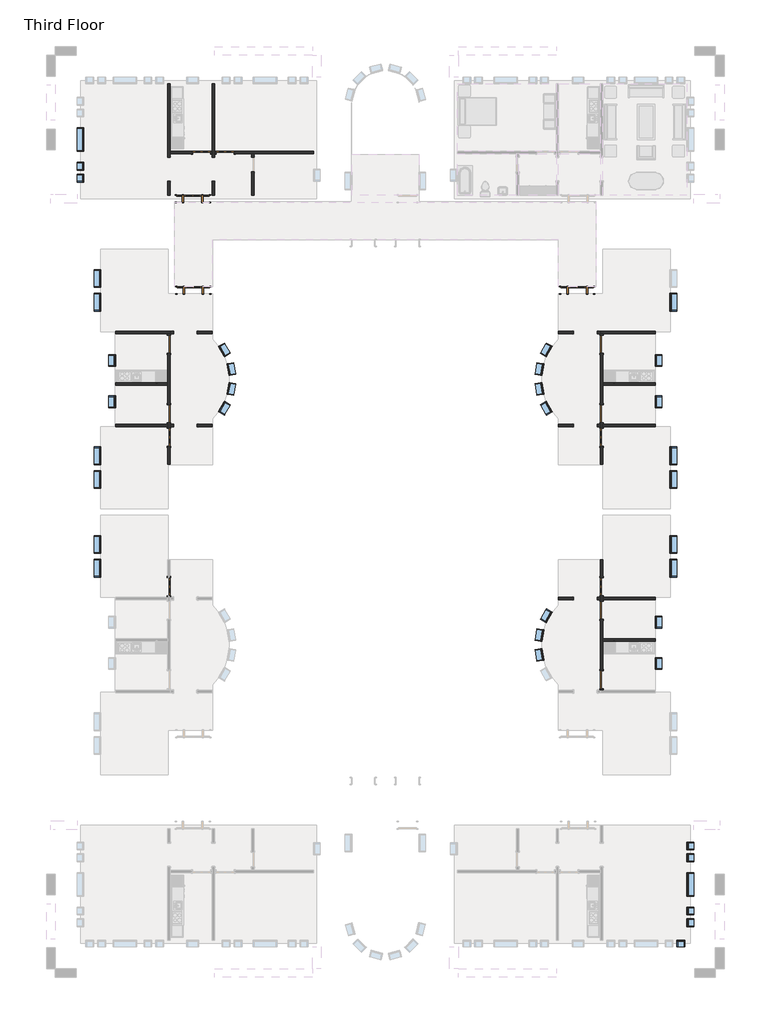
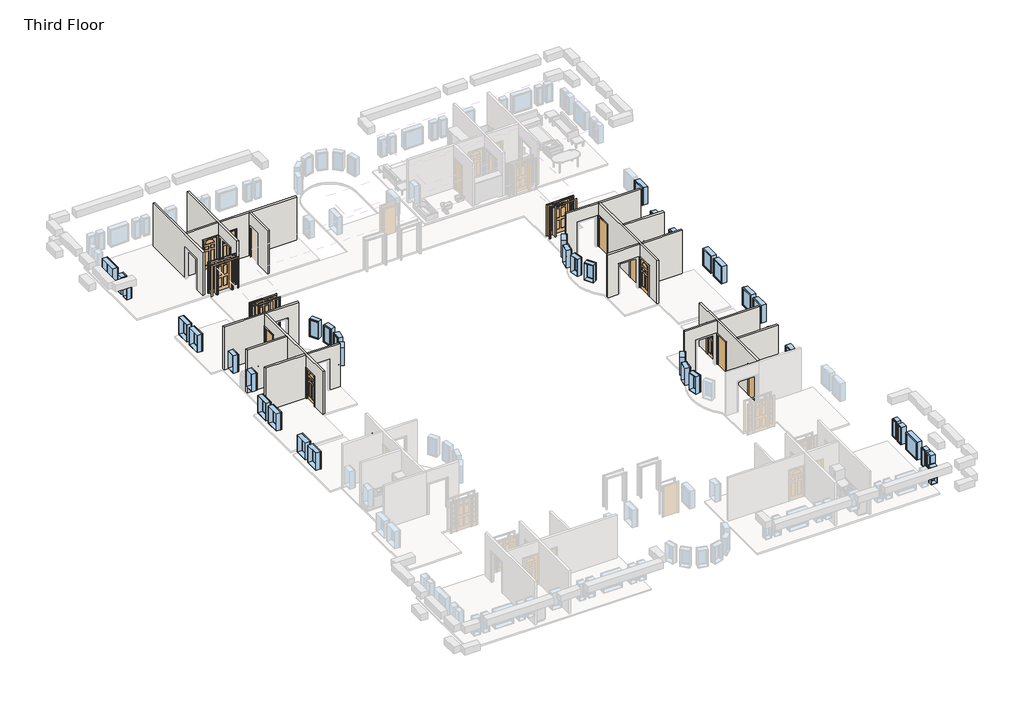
# One storey, part 2 of 4: 37 windows, 21 walls, 15 doors.
"""IFC4 building model written with IfcOpenShell, lengths in millimetres."""

from ifc_helpers import new_model, si_unit, frame, origin, place, context, project, spatial, polyline, outline, extrude, faceted_brep, transform, mapped, element, save
from components import door_829da954, door_2e3b4da2, door_a1797ceb, door_a3eb833a, door_dba5aa2e, door_ffdb1193, window_da97879f, window_d61ef850, window_60baf983, window_ed80354a, window_15c49d37, window_0e2fc6ce, window_d89bf842

model = new_model("IFC4")

# Units and contexts
model_context = context("Model", 3, world=origin())
ifc_project = project(units=[si_unit("LENGTHUNIT", "METRE", prefix="MILLI")], contexts=[model_context])

# Site, building, storey
site = spatial("IfcSite", under=ifc_project)
building = spatial("IfcBuilding", under=site)
storey = spatial("IfcBuildingStorey", under=building, Name="Third Floor", Elevation=6096.0)

# Doors
placement = place(None, origin())
door_shape = door_829da954(model_context)
element("IfcDoor", 1, ObjectType="Single-Decorative 2 : 36\" x 84\"", at=placement, inside=storey, context=model_context, shape_type="MappedRepresentation", body=[
    mapped(door_shape, transform((-23201.2839563, 6723.5441867, 6096.0), x_axis=(-1.0, 0.0, 0.0), y_axis=(0.0, -1.0, 0.0), z_axis=(0.0, 0.0, 1.0))),
])
element("IfcDoor", 2, ObjectType="Single-Decorative 2 : 36\" x 84\"", at=placement, inside=storey, context=model_context, shape_type="MappedRepresentation", body=[
    mapped(door_shape, transform((-26096.8839563, -7954.4808133, 6096.0), x_axis=(0.0, 1.0, 0.0), y_axis=(-1.0, 0.0, 0.0), z_axis=(0.0, 0.0, 1.0))),
])
element("IfcDoor", 3, ObjectType="Single-Decorative 2 : 36\" x 84\"", at=placement, inside=storey, context=model_context, shape_type="MappedRepresentation", body=[
    mapped(door_shape, transform((-3773.4589563, -15653.8558133, 6096.0), x_axis=(0.0, -1.0, 0.0), y_axis=(1.0, 0.0, 0.0), z_axis=(0.0, 0.0, 1.0))),
])
door_2_shape = door_2e3b4da2(model_context)
element("IfcDoor", 4, ObjectType="Single-Decorative 2 : 36\" x 84\"", at=placement, inside=storey, context=model_context, shape_type="MappedRepresentation", body=[
    mapped(door_2_shape, transform((-3773.4589563, -7954.4808133, 6096.0), x_axis=(0.0, 1.0, 0.0), y_axis=(-1.0, 0.0, 0.0), z_axis=(0.0, 0.0, 1.0))),
])
element("IfcDoor", 5, ObjectType="Single-Decorative 2 : 36\" x 84\"", at=placement, inside=storey, context=model_context, shape_type="MappedRepresentation", body=[
    mapped(door_2_shape, transform((-24420.4839563, 6723.5441867, 6096.0), x_axis=(1.0, 0.0, 0.0), y_axis=(0.0, 1.0, 0.0), z_axis=(0.0, 0.0, 1.0))),
])
element("IfcDoor", 6, ObjectType="Single-Decorative 2 : 36\" x 84\"", at=placement, inside=storey, context=model_context, shape_type="MappedRepresentation", body=[
    mapped(door_2_shape, transform((-26096.8839563, -15653.8558133, 6096.0), x_axis=(0.0, -1.0, 0.0), y_axis=(1.0, 0.0, 0.0), z_axis=(0.0, 0.0, 1.0))),
])
door_3_shape = door_a1797ceb(model_context)
element("IfcDoor", 7, ObjectType="Single-Flush : 36\" x 84\"", at=placement, inside=storey, context=model_context, shape_type="MappedRepresentation", body=[
    mapped(door_3_shape, transform((-3773.4589563, -3157.0558133, 6096.0), x_axis=(0.0, 1.0, 0.0), y_axis=(-1.0, 0.0, 0.0), z_axis=(0.0, 0.0, 1.0))),
])
element("IfcDoor", 8, ObjectType="Single-Flush : 36\" x 84\"", at=placement, inside=storey, context=model_context, shape_type="MappedRepresentation", body=[
    mapped(door_3_shape, transform((-26096.8839563, -6735.2808133, 6096.0), x_axis=(0.0, -1.0, 0.0), y_axis=(1.0, 0.0, 0.0), z_axis=(0.0, 0.0, 1.0))),
])
element("IfcDoor", 9, ObjectType="Single-Flush : 36\" x 84\"", at=placement, inside=storey, context=model_context, shape_type="MappedRepresentation", body=[
    mapped(door_3_shape, transform((-3773.4589563, -16873.0558133, 6096.0), x_axis=(0.0, 1.0, 0.0), y_axis=(-1.0, 0.0, 0.0), z_axis=(0.0, 0.0, 1.0))),
])
door_4_shape = door_a3eb833a(model_context)
element("IfcDoor", 10, ObjectType="Single-Flush : 36\" x 84\"", at=placement, inside=storey, context=model_context, shape_type="MappedRepresentation", body=[
    mapped(door_4_shape, transform((-3773.4589563, -6735.2808133, 6096.0), x_axis=(0.0, -1.0, 0.0), y_axis=(1.0, 0.0, 0.0), z_axis=(0.0, 0.0, 1.0))),
])
element("IfcDoor", 11, ObjectType="Single-Flush : 36\" x 84\"", at=placement, inside=storey, context=model_context, shape_type="MappedRepresentation", body=[
    mapped(door_4_shape, transform((-26096.8839563, -3157.0558133, 6096.0), x_axis=(0.0, 1.0, 0.0), y_axis=(-1.0, 0.0, 0.0), z_axis=(0.0, 0.0, 1.0))),
])
element("IfcDoor", 12, ObjectType="Single-Flush : 36\" x 84\"", at=placement, inside=storey, context=model_context, shape_type="MappedRepresentation", body=[
    mapped(door_4_shape, transform((-3773.4589563, -20451.2808133, 6096.0), x_axis=(0.0, -1.0, 0.0), y_axis=(1.0, 0.0, 0.0), z_axis=(0.0, 0.0, 1.0))),
])
door_5_shape = door_dba5aa2e(model_context)
element("IfcDoor", 13, ObjectType="Single-Raised Panel with Sidelights : 36\" x 84\"", at=placement, inside=storey, context=model_context, shape_type="MappedRepresentation", body=[
    mapped(door_5_shape, transform((-5029.1714563, -374.1683133, 6096.0), x_axis=(-1.0, 0.0, 0.0), y_axis=(0.0, -1.0, 0.0), z_axis=(0.0, 0.0, 1.0))),
])
door_6_shape = door_ffdb1193(model_context)
element("IfcDoor", 14, ObjectType="Single-Raised Panel with Sidelights : 36\" x 84\"", at=placement, inside=storey, context=model_context, shape_type="MappedRepresentation", body=[
    mapped(door_6_shape, transform((-24877.6839563, 4350.2316867, 6096.0), x_axis=(1.0, 0.0, 0.0), y_axis=(0.0, 1.0, 0.0), z_axis=(0.0, 0.0, 1.0))),
])
element("IfcDoor", 15, ObjectType="Single-Raised Panel with Sidelights : 36\" x 84\"", at=placement, inside=storey, context=model_context, shape_type="MappedRepresentation", body=[
    mapped(door_6_shape, transform((-24841.1714563, -374.1683133, 6096.0), x_axis=(1.0, 0.0, 0.0), y_axis=(0.0, 1.0, 0.0), z_axis=(0.0, 0.0, 1.0))),
])

# Walls
element("IfcWall", 16, ObjectType="Interior - 5\" Partition (2-hr)", at=placement, inside=storey, context=model_context, shape_type="Brep", body=[
    faceted_brep([(-1014.3839563, -2483.9558133, 6096.0), (-3836.9589563, -2483.9558133, 6096.0), (-3836.9589563, -2483.9558133, 9144.0), (-1014.3839563, -2483.9558133, 9144.0), (-1014.3839563, -2610.9558133, 6096.0), (-1014.3839563, -2610.9558133, 9144.0), (-3709.9589563, -2610.9558133, 9144.0), (-3836.9589563, -2610.9558133, 9144.0), (-3836.9589563, -2610.9558133, 6096.0), (-3709.9589563, -2610.9558133, 6096.0)], [[[0, 1, 2, 3]], [[4, 5, 6, 7, 8, 9]], [[1, 0, 4, 9, 8]], [[3, 2, 7, 6, 5]], [[2, 1, 8, 7]], [[0, 3, 5, 4]]]),
])
element("IfcWall", 17, ObjectType="Interior - 5\" Partition (2-hr)", at=placement, inside=storey, context=model_context, shape_type="Brep", body=[
    faceted_brep([(-3709.9589563, -7497.2808133, 8229.6), (-3709.9589563, -7497.2808133, 6096.0), (-3709.9589563, -7408.3808133, 6096.0), (-3709.9589563, -7281.3808133, 6096.0), (-3709.9589563, -7192.4808133, 6096.0), (-3709.9589563, -7192.4808133, 8229.6), (-3709.9589563, -6278.0808133, 8229.6), (-3709.9589563, -6278.0808133, 6096.0), (-3709.9589563, -5274.7808133, 6096.0), (-3709.9589563, -5147.7808133, 6096.0), (-3709.9589563, -3614.2558133, 6096.0), (-3709.9589563, -3614.2558133, 8229.6), (-3709.9589563, -2699.8558133, 8229.6), (-3709.9589563, -2699.8558133, 6096.0), (-3709.9589563, -2610.9558133, 6096.0), (-3709.9589563, -2610.9558133, 9144.0), (-3709.9589563, -5147.7808133, 9144.0), (-3709.9589563, -5274.7808133, 9144.0), (-3709.9589563, -7281.3808133, 9144.0), (-3709.9589563, -7408.3808133, 9144.0), (-3709.9589563, -9341.9558133, 9144.0), (-3709.9589563, -9341.9558133, 6096.0), (-3709.9589563, -8411.6808133, 6096.0), (-3709.9589563, -8411.6808133, 8229.6), (-3836.9589563, -7192.4808133, 6096.0), (-3836.9589563, -7281.3808133, 6096.0), (-3836.9589563, -7408.3808133, 6096.0), (-3836.9589563, -7497.2808133, 6096.0), (-3836.9589563, -7497.2808133, 8229.6), (-3836.9589563, -8411.6808133, 8229.6), (-3836.9589563, -8411.6808133, 6096.0), (-3836.9589563, -9341.9558133, 6096.0), (-3836.9589563, -9341.9558133, 9144.0), (-3836.9589563, -7408.3808133, 9144.0), (-3836.9589563, -7281.3808133, 9144.0), (-3836.9589563, -2610.9558133, 9144.0), (-3836.9589563, -2610.9558133, 6096.0), (-3836.9589563, -2699.8558133, 6096.0), (-3836.9589563, -2699.8558133, 8229.6), (-3836.9589563, -3614.2558133, 8229.6), (-3836.9589563, -3614.2558133, 6096.0), (-3836.9589563, -6278.0808133, 6096.0), (-3836.9589563, -6278.0808133, 8229.6), (-3836.9589563, -7192.4808133, 8229.6)], [[[0, 1, 2, 3, 4, 5, 6, 7, 8, 9, 10, 11, 12, 13, 14, 15, 16, 17, 18, 19, 20, 21, 22, 23]], [[24, 25, 26, 27, 28, 29, 30, 31, 32, 33, 34, 35, 36, 37, 38, 39, 40, 41, 42, 43]], [[14, 13, 37, 36]], [[4, 3, 2, 1, 27, 26, 25, 24]], [[41, 40, 10, 9, 8, 7]], [[22, 21, 31, 30]], [[20, 19, 18, 17, 16, 15, 35, 34, 33, 32]], [[15, 14, 36, 35]], [[21, 20, 32, 31]], [[38, 37, 13, 12]], [[39, 38, 12, 11]], [[40, 39, 11, 10]], [[5, 4, 24, 43]], [[6, 5, 43, 42]], [[7, 6, 42, 41]], [[28, 27, 1, 0]], [[29, 28, 0, 23]], [[30, 29, 23, 22]]]),
])
element("IfcWall", 18, ObjectType="Interior - 5\" Partition (2-hr)", at=placement, inside=storey, context=model_context, shape_type="SweptSolid", body=[
    extrude(outline(polyline([(-3709.9589563, -7281.3808133), (-1014.3839563, -7281.3808133), (-1014.3839563, -7408.3808133), (-3709.9589563, -7408.3808133), (-3709.9589563, -7281.3808133)])), frame((0.0, 0.0, 6096.0), z_axis=(0.0, 0.0, 1.0), x_axis=(1.0, 0.0, 0.0)), (0.0, 0.0, 1.0), 3048.0),
])
element("IfcWall", 19, ObjectType="Interior - 5\" Partition (2-hr)", at=placement, inside=storey, context=model_context, shape_type="SweptSolid", body=[
    extrude(outline(polyline([(-1014.3839563, -5274.7808133), (-3709.9589563, -5274.7808133), (-3709.9589563, -5147.7808133), (-1014.3839563, -5147.7808133), (-1014.3839563, -5274.7808133)])), frame((0.0, 0.0, 6096.0), z_axis=(0.0, 0.0, 1.0), x_axis=(1.0, 0.0, 0.0)), (0.0, 0.0, 1.0), 3048.0),
])
element("IfcWall", 20, ObjectType="Interior - 5\" Partition (2-hr)", at=placement, inside=storey, context=model_context, shape_type="SweptSolid", body=[
    extrude(outline(polyline([(6096.0, -5995.9589563), (6096.0, -5221.2589563), (8229.6, -5221.2589563), (8229.6, -4002.0589563), (6096.0, -4002.0589563), (6096.0, -3836.9589563), (9144.0, -3836.9589563), (9144.0, -5995.9589563), (6096.0, -5995.9589563)])), frame((0.0, -7408.3808133, 0.0), z_axis=(0.0, 1.0, 0.0), x_axis=(0.0, 0.0, 1.0)), (0.0, 0.0, 1.0), 127.0),
])
element("IfcWall", 21, ObjectType="Interior - 5\" Partition (2-hr)", at=placement, inside=storey, context=model_context, shape_type="SweptSolid", body=[
    extrude(outline(polyline([(8229.6, -4002.0589563), (6096.0, -4002.0589563), (6096.0, -3836.9589563), (9144.0, -3836.9589563), (9144.0, -5995.9589563), (6096.0, -5995.9589563), (6096.0, -5221.2589563), (8229.6, -5221.2589563), (8229.6, -4002.0589563)])), frame((0.0, -2610.9558133, 0.0), z_axis=(0.0, 1.0, 0.0), x_axis=(0.0, 0.0, 1.0)), (0.0, 0.0, 1.0), 127.0),
])
element("IfcWall", 22, ObjectType="Interior - 5\" Partition (2-hr)", at=placement, inside=storey, context=model_context, shape_type="Brep", body=[
    faceted_brep([(-26160.3839563, 10270.0191867, 6096.0), (-26160.3839563, 6483.8316867, 6096.0), (-26160.3839563, 6483.8316867, 8229.6), (-26160.3839563, 5264.6316867, 8229.6), (-26160.3839563, 5264.6316867, 6096.0), (-26160.3839563, 4526.4441867, 6096.0), (-26160.3839563, 4526.4441867, 9144.0), (-26160.3839563, 10270.0191867, 9144.0), (-26033.3839563, 6483.8316867, 8229.6), (-26033.3839563, 6483.8316867, 6096.0), (-26033.3839563, 6660.0441867, 6096.0), (-26033.3839563, 6787.0441867, 6096.0), (-26033.3839563, 10270.0191867, 6096.0), (-26033.3839563, 10270.0191867, 9144.0), (-26033.3839563, 6787.0441867, 9144.0), (-26033.3839563, 6660.0441867, 9144.0), (-26033.3839563, 4526.4441867, 9144.0), (-26033.3839563, 4526.4441867, 6096.0), (-26033.3839563, 5264.6316867, 6096.0), (-26033.3839563, 5264.6316867, 8229.6)], [[[0, 1, 2, 3, 4, 5, 6, 7]], [[8, 9, 10, 11, 12, 13, 14, 15, 16, 17, 18, 19]], [[12, 11, 10, 9, 1, 0]], [[18, 17, 5, 4]], [[7, 6, 16, 15, 14, 13]], [[0, 7, 13, 12]], [[6, 5, 17, 16]], [[4, 3, 19, 18]], [[2, 1, 9, 8]], [[3, 2, 8, 19]]]),
])
element("IfcWall", 23, ObjectType="Interior - 5\" Partition (2-hr)", at=placement, inside=storey, context=model_context, shape_type="Brep", body=[
    faceted_brep([(-23874.3839563, 5264.6316867, 8229.6), (-23874.3839563, 5264.6316867, 6096.0), (-23874.3839563, 4526.4441867, 6096.0), (-23874.3839563, 4526.4441867, 9144.0), (-23874.3839563, 6660.0441867, 9144.0), (-23874.3839563, 6787.0441867, 9144.0), (-23874.3839563, 10270.0191867, 9144.0), (-23874.3839563, 10270.0191867, 6096.0), (-23874.3839563, 6787.0441867, 6096.0), (-23874.3839563, 6660.0441867, 6096.0), (-23874.3839563, 6483.8316867, 6096.0), (-23874.3839563, 6483.8316867, 8229.6), (-23747.3839563, 4526.4441867, 6096.0), (-23747.3839563, 5264.6316867, 6096.0), (-23747.3839563, 5264.6316867, 8229.6), (-23747.3839563, 6483.8316867, 8229.6), (-23747.3839563, 6483.8316867, 6096.0), (-23747.3839563, 6660.0441867, 6096.0), (-23747.3839563, 6787.0441867, 6096.0), (-23747.3839563, 10270.0191867, 6096.0), (-23747.3839563, 10270.0191867, 9144.0), (-23747.3839563, 6787.0441867, 9144.0), (-23747.3839563, 6660.0441867, 9144.0), (-23747.3839563, 4526.4441867, 9144.0)], [[[0, 1, 2, 3, 4, 5, 6, 7, 8, 9, 10, 11]], [[12, 13, 14, 15, 16, 17, 18, 19, 20, 21, 22, 23]], [[2, 1, 13, 12]], [[10, 9, 8, 7, 19, 18, 17, 16]], [[6, 5, 4, 3, 23, 22, 21, 20]], [[7, 6, 20, 19]], [[3, 2, 12, 23]], [[16, 15, 11, 10]], [[14, 13, 1, 0]], [[15, 14, 0, 11]]]),
])
element("IfcWall", 24, ObjectType="Interior - 5\" Partition (2-hr)", at=placement, inside=storey, context=model_context, shape_type="Brep", body=[
    faceted_brep([(-23658.4839563, 6787.0441867, 8229.6), (-23658.4839563, 6787.0441867, 6096.0), (-23747.3839563, 6787.0441867, 6096.0), (-23747.3839563, 6787.0441867, 9144.0), (-18653.0964563, 6787.0441867, 9144.0), (-18653.0964563, 6787.0441867, 6096.0), (-22744.0839563, 6787.0441867, 6096.0), (-22744.0839563, 6787.0441867, 8229.6), (-23747.3839563, 6660.0441867, 6096.0), (-23658.4839563, 6660.0441867, 6096.0), (-23658.4839563, 6660.0441867, 8229.6), (-22744.0839563, 6660.0441867, 8229.6), (-22744.0839563, 6660.0441867, 6096.0), (-21828.0964563, 6660.0441867, 6096.0), (-21701.0964563, 6660.0441867, 6096.0), (-18653.0964563, 6660.0441867, 6096.0), (-18653.0964563, 6660.0441867, 9144.0), (-21701.0964563, 6660.0441867, 9144.0), (-21828.0964563, 6660.0441867, 9144.0), (-23747.3839563, 6660.0441867, 9144.0)], [[[0, 1, 2, 3, 4, 5, 6, 7]], [[8, 9, 10, 11, 12, 13, 14, 15, 16, 17, 18, 19]], [[2, 1, 9, 8]], [[6, 5, 15, 14, 13, 12]], [[4, 3, 19, 18, 17, 16]], [[3, 2, 8, 19]], [[5, 4, 16, 15]], [[10, 9, 1, 0]], [[11, 10, 0, 7]], [[12, 11, 7, 6]]]),
])
element("IfcWall", 25, ObjectType="Interior - 5\" Partition (2-hr)", at=placement, inside=storey, context=model_context, shape_type="SweptSolid", body=[
    extrude(outline(polyline([(6660.0441867, 6096.0), (6494.9441867, 6096.0), (6494.9441867, 8229.6), (5732.9441867, 8229.6), (5732.9441867, 6096.0), (4526.4441867, 6096.0), (4526.4441867, 9144.0), (6660.0441867, 9144.0), (6660.0441867, 6096.0)])), frame((-21828.0964563, 0.0, 0.0), z_axis=(1.0, 0.0, 0.0), x_axis=(0.0, 1.0, 0.0)), (0.0, 0.0, 1.0), 127.0),
])
element("IfcWall", 26, ObjectType="Interior - 5\" Partition (2-hr)", at=placement, inside=storey, context=model_context, shape_type="SweptSolid", body=[
    extrude(outline(polyline([(8229.6, -23963.2839563), (6096.0, -23963.2839563), (6096.0, -23874.3839563), (9144.0, -23874.3839563), (9144.0, -26033.3839563), (6096.0, -26033.3839563), (6096.0, -24877.6839563), (8229.6, -24877.6839563), (8229.6, -23963.2839563)])), frame((0.0, 6660.0441867, 0.0), z_axis=(0.0, 1.0, 0.0), x_axis=(0.0, 0.0, 1.0)), (0.0, 0.0, 1.0), 127.0),
])
element("IfcWall", 27, ObjectType="Interior - 5\" Partition (2-hr)", at=placement, inside=storey, context=model_context, shape_type="Brep", body=[
    faceted_brep([(-28855.9589563, -2610.9558133, 6096.0), (-26160.3839563, -2610.9558133, 6096.0), (-26033.3839563, -2610.9558133, 6096.0), (-26033.3839563, -2610.9558133, 9144.0), (-26160.3839563, -2610.9558133, 9144.0), (-28855.9589563, -2610.9558133, 9144.0), (-28855.9589563, -2483.9558133, 6096.0), (-28855.9589563, -2483.9558133, 9144.0), (-26033.3839563, -2483.9558133, 9144.0), (-26033.3839563, -2483.9558133, 6096.0)], [[[0, 1, 2, 3, 4, 5]], [[6, 7, 8, 9]], [[2, 1, 0, 6, 9]], [[5, 4, 3, 8, 7]], [[3, 2, 9, 8]], [[0, 5, 7, 6]]]),
])
element("IfcWall", 28, ObjectType="Interior - 5\" Partition (2-hr)", at=placement, inside=storey, context=model_context, shape_type="Brep", body=[
    faceted_brep([(-26033.3839563, -7497.2808133, 8229.6), (-26033.3839563, -7497.2808133, 6096.0), (-26033.3839563, -7408.3808133, 6096.0), (-26033.3839563, -7281.3808133, 6096.0), (-26033.3839563, -7192.4808133, 6096.0), (-26033.3839563, -7192.4808133, 8229.6), (-26033.3839563, -6278.0808133, 8229.6), (-26033.3839563, -6278.0808133, 6096.0), (-26033.3839563, -3614.2558133, 6096.0), (-26033.3839563, -3614.2558133, 8229.6), (-26033.3839563, -2699.8558133, 8229.6), (-26033.3839563, -2699.8558133, 6096.0), (-26033.3839563, -2610.9558133, 6096.0), (-26033.3839563, -2610.9558133, 9144.0), (-26033.3839563, -7281.3808133, 9144.0), (-26033.3839563, -7408.3808133, 9144.0), (-26033.3839563, -9341.9558133, 9144.0), (-26033.3839563, -9341.9558133, 6096.0), (-26033.3839563, -8411.6808133, 6096.0), (-26033.3839563, -8411.6808133, 8229.6), (-26160.3839563, -7192.4808133, 6096.0), (-26160.3839563, -7281.3808133, 6096.0), (-26160.3839563, -7408.3808133, 6096.0), (-26160.3839563, -7497.2808133, 6096.0), (-26160.3839563, -7497.2808133, 8229.6), (-26160.3839563, -8411.6808133, 8229.6), (-26160.3839563, -8411.6808133, 6096.0), (-26160.3839563, -9341.9558133, 6096.0), (-26160.3839563, -9341.9558133, 9144.0), (-26160.3839563, -7408.3808133, 9144.0), (-26160.3839563, -7281.3808133, 9144.0), (-26160.3839563, -5274.7808133, 9144.0), (-26160.3839563, -5147.7808133, 9144.0), (-26160.3839563, -2610.9558133, 9144.0), (-26160.3839563, -2610.9558133, 6096.0), (-26160.3839563, -2699.8558133, 6096.0), (-26160.3839563, -2699.8558133, 8229.6), (-26160.3839563, -3614.2558133, 8229.6), (-26160.3839563, -3614.2558133, 6096.0), (-26160.3839563, -5147.7808133, 6096.0), (-26160.3839563, -5274.7808133, 6096.0), (-26160.3839563, -6278.0808133, 6096.0), (-26160.3839563, -6278.0808133, 8229.6), (-26160.3839563, -7192.4808133, 8229.6)], [[[0, 1, 2, 3, 4, 5, 6, 7, 8, 9, 10, 11, 12, 13, 14, 15, 16, 17, 18, 19]], [[20, 21, 22, 23, 24, 25, 26, 27, 28, 29, 30, 31, 32, 33, 34, 35, 36, 37, 38, 39, 40, 41, 42, 43]], [[12, 11, 35, 34]], [[4, 3, 2, 1, 23, 22, 21, 20]], [[41, 40, 39, 38, 8, 7]], [[18, 17, 27, 26]], [[16, 15, 14, 13, 33, 32, 31, 30, 29, 28]], [[13, 12, 34, 33]], [[17, 16, 28, 27]], [[36, 35, 11, 10]], [[37, 36, 10, 9]], [[38, 37, 9, 8]], [[5, 4, 20, 43]], [[6, 5, 43, 42]], [[7, 6, 42, 41]], [[24, 23, 1, 0]], [[25, 24, 0, 19]], [[26, 25, 19, 18]]]),
])
element("IfcWall", 29, ObjectType="Interior - 5\" Partition (2-hr)", at=placement, inside=storey, context=model_context, shape_type="SweptSolid", body=[
    extrude(outline(polyline([(-26160.3839563, -7408.3808133), (-28855.9589563, -7408.3808133), (-28855.9589563, -7281.3808133), (-26160.3839563, -7281.3808133), (-26160.3839563, -7408.3808133)])), frame((0.0, 0.0, 6096.0), z_axis=(0.0, 0.0, 1.0), x_axis=(1.0, 0.0, 0.0)), (0.0, 0.0, 1.0), 3048.0),
])
element("IfcWall", 30, ObjectType="Interior - 5\" Partition (2-hr)", at=placement, inside=storey, context=model_context, shape_type="SweptSolid", body=[
    extrude(outline(polyline([(-28855.9589563, -5147.7808133), (-26160.3839563, -5147.7808133), (-26160.3839563, -5274.7808133), (-28855.9589563, -5274.7808133), (-28855.9589563, -5147.7808133)])), frame((0.0, 0.0, 6096.0), z_axis=(0.0, 0.0, 1.0), x_axis=(1.0, 0.0, 0.0)), (0.0, 0.0, 1.0), 3048.0),
])
element("IfcWall", 31, ObjectType="Interior - 5\" Partition (2-hr)", at=placement, inside=storey, context=model_context, shape_type="SweptSolid", body=[
    extrude(outline(polyline([(8229.6, -24649.0839563), (6096.0, -24649.0839563), (6096.0, -23874.3839563), (9144.0, -23874.3839563), (9144.0, -26033.3839563), (6096.0, -26033.3839563), (6096.0, -25868.2839563), (8229.6, -25868.2839563), (8229.6, -24649.0839563)])), frame((0.0, -7408.3808133, 0.0), z_axis=(0.0, 1.0, 0.0), x_axis=(0.0, 0.0, 1.0)), (0.0, 0.0, 1.0), 127.0),
])
element("IfcWall", 32, ObjectType="Interior - 5\" Partition (2-hr)", at=placement, inside=storey, context=model_context, shape_type="SweptSolid", body=[
    extrude(outline(polyline([(6096.0, -26033.3839563), (6096.0, -25868.2839563), (8229.6, -25868.2839563), (8229.6, -24649.0839563), (6096.0, -24649.0839563), (6096.0, -23874.3839563), (9144.0, -23874.3839563), (9144.0, -26033.3839563), (6096.0, -26033.3839563)])), frame((0.0, -2610.9558133, 0.0), z_axis=(0.0, 1.0, 0.0), x_axis=(0.0, 0.0, 1.0)), (0.0, 0.0, 1.0), 127.0),
])
element("IfcWall", 33, ObjectType="Interior - 5\" Partition (2-hr)", at=placement, inside=storey, context=model_context, shape_type="Brep", body=[
    faceted_brep([(-3836.9589563, -16111.0558133, 8229.6), (-3836.9589563, -16111.0558133, 6096.0), (-3836.9589563, -16199.9558133, 6096.0), (-3836.9589563, -16326.9558133, 6096.0), (-3836.9589563, -16415.8558133, 6096.0), (-3836.9589563, -16415.8558133, 8229.6), (-3836.9589563, -17330.2558133, 8229.6), (-3836.9589563, -17330.2558133, 6096.0), (-3836.9589563, -19994.0808133, 6096.0), (-3836.9589563, -19994.0808133, 8229.6), (-3836.9589563, -20908.4808133, 8229.6), (-3836.9589563, -20908.4808133, 6096.0), (-3836.9589563, -20997.3808133, 6096.0), (-3836.9589563, -20997.3808133, 9144.0), (-3836.9589563, -16326.9558133, 9144.0), (-3836.9589563, -16199.9558133, 9144.0), (-3836.9589563, -14266.3808133, 9144.0), (-3836.9589563, -14266.3808133, 6096.0), (-3836.9589563, -15196.6558133, 6096.0), (-3836.9589563, -15196.6558133, 8229.6), (-3709.9589563, -16415.8558133, 6096.0), (-3709.9589563, -16326.9558133, 6096.0), (-3709.9589563, -16199.9558133, 6096.0), (-3709.9589563, -16111.0558133, 6096.0), (-3709.9589563, -16111.0558133, 8229.6), (-3709.9589563, -15196.6558133, 8229.6), (-3709.9589563, -15196.6558133, 6096.0), (-3709.9589563, -14266.3808133, 6096.0), (-3709.9589563, -14266.3808133, 9144.0), (-3709.9589563, -16199.9558133, 9144.0), (-3709.9589563, -16326.9558133, 9144.0), (-3709.9589563, -18333.5558133, 9144.0), (-3709.9589563, -18460.5558133, 9144.0), (-3709.9589563, -20997.3808133, 9144.0), (-3709.9589563, -20997.3808133, 6096.0), (-3709.9589563, -20908.4808133, 6096.0), (-3709.9589563, -20908.4808133, 8229.6), (-3709.9589563, -19994.0808133, 8229.6), (-3709.9589563, -19994.0808133, 6096.0), (-3709.9589563, -18460.5558133, 6096.0), (-3709.9589563, -18333.5558133, 6096.0), (-3709.9589563, -17330.2558133, 6096.0), (-3709.9589563, -17330.2558133, 8229.6), (-3709.9589563, -16415.8558133, 8229.6)], [[[0, 1, 2, 3, 4, 5, 6, 7, 8, 9, 10, 11, 12, 13, 14, 15, 16, 17, 18, 19]], [[20, 21, 22, 23, 24, 25, 26, 27, 28, 29, 30, 31, 32, 33, 34, 35, 36, 37, 38, 39, 40, 41, 42, 43]], [[12, 11, 35, 34]], [[4, 3, 2, 1, 23, 22, 21, 20]], [[41, 40, 39, 38, 8, 7]], [[18, 17, 27, 26]], [[16, 15, 14, 13, 33, 32, 31, 30, 29, 28]], [[13, 12, 34, 33]], [[17, 16, 28, 27]], [[36, 35, 11, 10]], [[37, 36, 10, 9]], [[38, 37, 9, 8]], [[5, 4, 20, 43]], [[6, 5, 43, 42]], [[7, 6, 42, 41]], [[24, 23, 1, 0]], [[25, 24, 0, 19]], [[26, 25, 19, 18]]]),
])
element("IfcWall", 34, ObjectType="Interior - 5\" Partition (2-hr)", at=placement, inside=storey, context=model_context, shape_type="SweptSolid", body=[
    extrude(outline(polyline([(-3709.9589563, -16199.9558133), (-1014.3839563, -16199.9558133), (-1014.3839563, -16326.9558133), (-3709.9589563, -16326.9558133), (-3709.9589563, -16199.9558133)])), frame((0.0, 0.0, 6096.0), z_axis=(0.0, 0.0, 1.0), x_axis=(1.0, 0.0, 0.0)), (0.0, 0.0, 1.0), 3048.0),
])
element("IfcWall", 35, ObjectType="Interior - 5\" Partition (2-hr)", at=placement, inside=storey, context=model_context, shape_type="SweptSolid", body=[
    extrude(outline(polyline([(-1014.3839563, -18460.5558133), (-3709.9589563, -18460.5558133), (-3709.9589563, -18333.5558133), (-1014.3839563, -18333.5558133), (-1014.3839563, -18460.5558133)])), frame((0.0, 0.0, 6096.0), z_axis=(0.0, 0.0, 1.0), x_axis=(1.0, 0.0, 0.0)), (0.0, 0.0, 1.0), 3048.0),
])
element("IfcWall", 36, ObjectType="Interior - 5\" Partition (2-hr)", at=placement, inside=storey, context=model_context, shape_type="SweptSolid", body=[
    extrude(outline(polyline([(6096.0, -5995.9589563), (6096.0, -5221.2589563), (8229.6, -5221.2589563), (8229.6, -4002.0589563), (6096.0, -4002.0589563), (6096.0, -3836.9589563), (9144.0, -3836.9589563), (9144.0, -5995.9589563), (6096.0, -5995.9589563)])), frame((0.0, -16326.9558133, 0.0), z_axis=(0.0, 1.0, 0.0), x_axis=(0.0, 0.0, 1.0)), (0.0, 0.0, 1.0), 127.0),
])

# Windows
window_shape = window_da97879f(model_context)
element("IfcWindow", 37, ObjectType="Fixed : 16\" x 48\"", at=placement, inside=storey, context=model_context, shape_type="MappedRepresentation", body=[
    mapped(window_shape, transform((-30668.8839563, 5378.9316867, 6096.0), x_axis=(0.0, -1.0, 0.0), y_axis=(1.0, 0.0, 0.0), z_axis=(0.0, 0.0, 1.0))),
])
element("IfcWindow", 38, ObjectType="Fixed : 16\" x 48\"", at=placement, inside=storey, context=model_context, shape_type="MappedRepresentation", body=[
    mapped(window_shape, transform((-30668.8839563, 5988.5316867, 6096.0), x_axis=(0.0, -1.0, 0.0), y_axis=(1.0, 0.0, 0.0), z_axis=(0.0, 0.0, 1.0))),
])
element("IfcWindow", 39, ObjectType="Fixed : 16\" x 48\"", at=placement, inside=storey, context=model_context, shape_type="MappedRepresentation", body=[
    mapped(window_shape, transform((354.0410437, -34054.5683133, 6096.0), x_axis=(1.0, 0.0, 0.0), y_axis=(0.0, 1.0, 0.0), z_axis=(0.0, 0.0, 1.0))),
])
element("IfcWindow", 40, ObjectType="Fixed : 16\" x 48\"", at=placement, inside=storey, context=model_context, shape_type="MappedRepresentation", body=[
    mapped(window_shape, transform((798.5410437, -28987.2683133, 6096.0), x_axis=(0.0, 1.0, 0.0), y_axis=(-1.0, 0.0, 0.0), z_axis=(0.0, 0.0, 1.0))),
])
element("IfcWindow", 41, ObjectType="Fixed : 16\" x 48\"", at=placement, inside=storey, context=model_context, shape_type="MappedRepresentation", body=[
    mapped(window_shape, transform((798.5410437, -29596.8683133, 6096.0), x_axis=(0.0, 1.0, 0.0), y_axis=(-1.0, 0.0, 0.0), z_axis=(0.0, 0.0, 1.0))),
])
window_2_shape = window_d61ef850(model_context)
element("IfcWindow", 42, ObjectType="Fixed : 16\" x 48\"", at=placement, inside=storey, context=model_context, shape_type="MappedRepresentation", body=[
    mapped(window_2_shape, transform((798.5410437, -33025.8683133, 6096.0), x_axis=(0.0, -1.0, 0.0), y_axis=(1.0, 0.0, 0.0), z_axis=(0.0, 0.0, 1.0))),
])
element("IfcWindow", 43, ObjectType="Fixed : 16\" x 48\"", at=placement, inside=storey, context=model_context, shape_type="MappedRepresentation", body=[
    mapped(window_2_shape, transform((798.5410437, -32416.2683133, 6096.0), x_axis=(0.0, -1.0, 0.0), y_axis=(1.0, 0.0, 0.0), z_axis=(0.0, 0.0, 1.0))),
])
window_3_shape = window_60baf983(model_context)
element("IfcWindow", 44, ObjectType="Fixed : 24\" x 48\"", at=placement, inside=storey, context=model_context, shape_type="MappedRepresentation", body=[
    mapped(window_3_shape, transform((-6648.1467215, -3474.0215337, 6096.0), x_axis=(-0.4961910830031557, -0.8682133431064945, 0.0), y_axis=(0.8682133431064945, -0.4961910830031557, 0.0), z_axis=(0.0, 0.0, 1.0))),
])
element("IfcWindow", 45, ObjectType="Fixed : 24\" x 48\"", at=placement, inside=storey, context=model_context, shape_type="MappedRepresentation", body=[
    mapped(window_3_shape, transform((-6991.4751134, -4468.822297, 6096.0), x_axis=(-0.16973229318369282, -0.9854902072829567, 0.0), y_axis=(0.9854902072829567, -0.16973229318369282, 0.0), z_axis=(0.0, 0.0, 1.0))),
])
element("IfcWindow", 46, ObjectType="Fixed : 24\" x 48\"", at=placement, inside=storey, context=model_context, shape_type="MappedRepresentation", body=[
    mapped(window_3_shape, transform((-29032.1714563, -4030.1808133, 6096.0), x_axis=(0.0, -1.0, 0.0), y_axis=(1.0, 0.0, 0.0), z_axis=(0.0, 0.0, 1.0))),
])
element("IfcWindow", 47, ObjectType="Fixed : 24\" x 48\"", at=placement, inside=storey, context=model_context, shape_type="MappedRepresentation", body=[
    mapped(window_3_shape, transform((-29032.1714563, -6163.7808133, 6096.0), x_axis=(0.0, -1.0, 0.0), y_axis=(1.0, 0.0, 0.0), z_axis=(0.0, 0.0, 1.0))),
])
element("IfcWindow", 48, ObjectType="Fixed : 24\" x 48\"", at=placement, inside=storey, context=model_context, shape_type="MappedRepresentation", body=[
    mapped(window_3_shape, transform((-23223.7429238, -6417.4311225, 6096.0), x_axis=(0.4961910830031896, 0.8682133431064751, 0.0), y_axis=(-0.8682133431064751, 0.4961910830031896, 0.0), z_axis=(0.0, 0.0, 1.0))),
])
element("IfcWindow", 49, ObjectType="Fixed : 24\" x 48\"", at=placement, inside=storey, context=model_context, shape_type="MappedRepresentation", body=[
    mapped(window_3_shape, transform((-22880.6234621, -5423.2119495, 6096.0), x_axis=(0.16973229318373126, 0.98549020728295, 0.0), y_axis=(-0.98549020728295, 0.16973229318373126, 0.0), z_axis=(0.0, 0.0, 1.0))),
])
element("IfcWindow", 50, ObjectType="Fixed : 24\" x 48\"", at=placement, inside=storey, context=model_context, shape_type="MappedRepresentation", body=[
    mapped(window_3_shape, transform((-838.1714563, -19578.1558133, 6096.0), x_axis=(0.0, 1.0, 0.0), y_axis=(-1.0, 0.0, 0.0), z_axis=(0.0, 0.0, 1.0))),
])
element("IfcWindow", 51, ObjectType="Fixed : 24\" x 48\"", at=placement, inside=storey, context=model_context, shape_type="MappedRepresentation", body=[
    mapped(window_3_shape, transform((-838.1714563, -17444.5558133, 6096.0), x_axis=(0.0, 1.0, 0.0), y_axis=(-1.0, 0.0, 0.0), z_axis=(0.0, 0.0, 1.0))),
])
element("IfcWindow", 52, ObjectType="Fixed : 24\" x 48\"", at=placement, inside=storey, context=model_context, shape_type="MappedRepresentation", body=[
    mapped(window_3_shape, transform((-6646.5999888, -17190.9055042, 6096.0), x_axis=(-0.49619108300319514, -0.868213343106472, 0.0), y_axis=(0.868213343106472, -0.49619108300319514, 0.0), z_axis=(0.0, 0.0, 1.0))),
])
element("IfcWindow", 53, ObjectType="Fixed : 24\" x 48\"", at=placement, inside=storey, context=model_context, shape_type="MappedRepresentation", body=[
    mapped(window_3_shape, transform((-6989.7194505, -18185.1246771, 6096.0), x_axis=(-0.1697322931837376, -0.9854902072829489, 0.0), y_axis=(0.9854902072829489, -0.1697322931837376, 0.0), z_axis=(0.0, 0.0, 1.0))),
])
window_4_shape = window_ed80354a(model_context)
element("IfcWindow", 54, ObjectType="Fixed : 24\" x 48\"", at=placement, inside=storey, context=model_context, shape_type="MappedRepresentation", body=[
    mapped(window_4_shape, transform((-838.1714563, -4030.1808133, 6096.0), x_axis=(0.0, -1.0, 0.0), y_axis=(1.0, 0.0, 0.0), z_axis=(0.0, 0.0, 1.0))),
])
element("IfcWindow", 55, ObjectType="Fixed : 24\" x 48\"", at=placement, inside=storey, context=model_context, shape_type="MappedRepresentation", body=[
    mapped(window_4_shape, transform((-838.1714563, -6163.7808133, 6096.0), x_axis=(0.0, -1.0, 0.0), y_axis=(1.0, 0.0, 0.0), z_axis=(0.0, 0.0, 1.0))),
])
element("IfcWindow", 56, ObjectType="Fixed : 24\" x 48\"", at=placement, inside=storey, context=model_context, shape_type="MappedRepresentation", body=[
    mapped(window_4_shape, transform((-6648.1467215, -6418.3150929, 6096.0), x_axis=(-0.4961910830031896, 0.8682133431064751, 0.0), y_axis=(-0.8682133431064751, -0.4961910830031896, 0.0), z_axis=(0.0, 0.0, 1.0))),
])
element("IfcWindow", 57, ObjectType="Fixed : 24\" x 48\"", at=placement, inside=storey, context=model_context, shape_type="MappedRepresentation", body=[
    mapped(window_4_shape, transform((-6991.4751134, -5423.5143296, 6096.0), x_axis=(-0.16973229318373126, 0.98549020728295, 0.0), y_axis=(-0.98549020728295, -0.16973229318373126, 0.0), z_axis=(0.0, 0.0, 1.0))),
])
element("IfcWindow", 58, ObjectType="Fixed : 24\" x 48\"", at=placement, inside=storey, context=model_context, shape_type="MappedRepresentation", body=[
    mapped(window_4_shape, transform((-23223.7429238, -3474.9055042, 6096.0), x_axis=(0.4961910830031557, -0.8682133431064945, 0.0), y_axis=(0.8682133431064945, 0.4961910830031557, 0.0), z_axis=(0.0, 0.0, 1.0))),
])
element("IfcWindow", 59, ObjectType="Fixed : 24\" x 48\"", at=placement, inside=storey, context=model_context, shape_type="MappedRepresentation", body=[
    mapped(window_4_shape, transform((-22880.6234621, -4469.1246771, 6096.0), x_axis=(0.16973229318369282, -0.9854902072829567, 0.0), y_axis=(0.9854902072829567, 0.16973229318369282, 0.0), z_axis=(0.0, 0.0, 1.0))),
])
element("IfcWindow", 60, ObjectType="Fixed : 24\" x 48\"", at=placement, inside=storey, context=model_context, shape_type="MappedRepresentation", body=[
    mapped(window_4_shape, transform((-6989.7194505, -19139.2119495, 6096.0), x_axis=(-0.1697322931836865, 0.9854902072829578, 0.0), y_axis=(-0.9854902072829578, -0.1697322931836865, 0.0), z_axis=(0.0, 0.0, 1.0))),
])
window_5_shape = window_15c49d37(model_context)
element("IfcWindow", 61, ObjectType="Fixed : 36\" x 48\"", at=placement, inside=storey, context=model_context, shape_type="MappedRepresentation", body=[
    mapped(window_5_shape, transform((-29794.1714563, -10165.8683133, 6096.0), x_axis=(0.0, -1.0, 0.0), y_axis=(1.0, 0.0, 0.0), z_axis=(0.0, 0.0, 1.0))),
])
element("IfcWindow", 62, ObjectType="Fixed : 36\" x 48\"", at=placement, inside=storey, context=model_context, shape_type="MappedRepresentation", body=[
    mapped(window_5_shape, transform((-29794.1714563, -8946.6683133, 6096.0), x_axis=(0.0, -1.0, 0.0), y_axis=(1.0, 0.0, 0.0), z_axis=(0.0, 0.0, 1.0))),
])
element("IfcWindow", 63, ObjectType="Fixed : 36\" x 48\"", at=placement, inside=storey, context=model_context, shape_type="MappedRepresentation", body=[
    mapped(window_5_shape, transform((-29794.1714563, 197.3316867, 6096.0), x_axis=(0.0, -1.0, 0.0), y_axis=(1.0, 0.0, 0.0), z_axis=(0.0, 0.0, 1.0))),
])
element("IfcWindow", 64, ObjectType="Fixed : 36\" x 48\"", at=placement, inside=storey, context=model_context, shape_type="MappedRepresentation", body=[
    mapped(window_5_shape, transform((-29794.1714563, -1021.8683133, 6096.0), x_axis=(0.0, -1.0, 0.0), y_axis=(1.0, 0.0, 0.0), z_axis=(0.0, 0.0, 1.0))),
])
element("IfcWindow", 65, ObjectType="Fixed : 36\" x 48\"", at=placement, inside=storey, context=model_context, shape_type="MappedRepresentation", body=[
    mapped(window_5_shape, transform((-76.1714563, -13442.4683133, 6096.0), x_axis=(0.0, 1.0, 0.0), y_axis=(-1.0, 0.0, 0.0), z_axis=(0.0, 0.0, 1.0))),
])
element("IfcWindow", 66, ObjectType="Fixed : 36\" x 48\"", at=placement, inside=storey, context=model_context, shape_type="MappedRepresentation", body=[
    mapped(window_5_shape, transform((-76.1714563, -14661.6683133, 6096.0), x_axis=(0.0, 1.0, 0.0), y_axis=(-1.0, 0.0, 0.0), z_axis=(0.0, 0.0, 1.0))),
])
window_6_shape = window_0e2fc6ce(model_context)
element("IfcWindow", 67, ObjectType="Fixed : 36\" x 48\"", at=placement, inside=storey, context=model_context, shape_type="MappedRepresentation", body=[
    mapped(window_6_shape, transform((-76.1714563, -10165.8683133, 6096.0), x_axis=(0.0, -1.0, 0.0), y_axis=(1.0, 0.0, 0.0), z_axis=(0.0, 0.0, 1.0))),
])
element("IfcWindow", 68, ObjectType="Fixed : 36\" x 48\"", at=placement, inside=storey, context=model_context, shape_type="MappedRepresentation", body=[
    mapped(window_6_shape, transform((-76.1714563, -8946.6683133, 6096.0), x_axis=(0.0, -1.0, 0.0), y_axis=(1.0, 0.0, 0.0), z_axis=(0.0, 0.0, 1.0))),
])
element("IfcWindow", 69, ObjectType="Fixed : 36\" x 48\"", at=placement, inside=storey, context=model_context, shape_type="MappedRepresentation", body=[
    mapped(window_6_shape, transform((-76.1714563, -1021.8683133, 6096.0), x_axis=(0.0, -1.0, 0.0), y_axis=(1.0, 0.0, 0.0), z_axis=(0.0, 0.0, 1.0))),
])
element("IfcWindow", 70, ObjectType="Fixed : 36\" x 48\"", at=placement, inside=storey, context=model_context, shape_type="MappedRepresentation", body=[
    mapped(window_6_shape, transform((-29794.1714563, -13442.4683133, 6096.0), x_axis=(0.0, 1.0, 0.0), y_axis=(-1.0, 0.0, 0.0), z_axis=(0.0, 0.0, 1.0))),
])
element("IfcWindow", 71, ObjectType="Fixed : 36\" x 48\"", at=placement, inside=storey, context=model_context, shape_type="MappedRepresentation", body=[
    mapped(window_6_shape, transform((-29794.1714563, -14661.6683133, 6096.0), x_axis=(0.0, 1.0, 0.0), y_axis=(-1.0, 0.0, 0.0), z_axis=(0.0, 0.0, 1.0))),
])
window_7_shape = window_d89bf842(model_context)
element("IfcWindow", 72, ObjectType="Fixed : 48\" x 48\"", at=placement, inside=storey, context=model_context, shape_type="MappedRepresentation", body=[
    mapped(window_7_shape, transform((-30668.8839563, 7436.3316867, 6096.0), x_axis=(0.0, 1.0, 0.0), y_axis=(-1.0, 0.0, 0.0), z_axis=(0.0, 0.0, 1.0))),
])
element("IfcWindow", 73, ObjectType="Fixed : 48\" x 48\"", at=placement, inside=storey, context=model_context, shape_type="MappedRepresentation", body=[
    mapped(window_7_shape, transform((798.5410437, -31044.6683133, 6096.0), x_axis=(0.0, -1.0, 0.0), y_axis=(1.0, 0.0, 0.0), z_axis=(0.0, 0.0, 1.0))),
])

save(model, "model.ifc")
